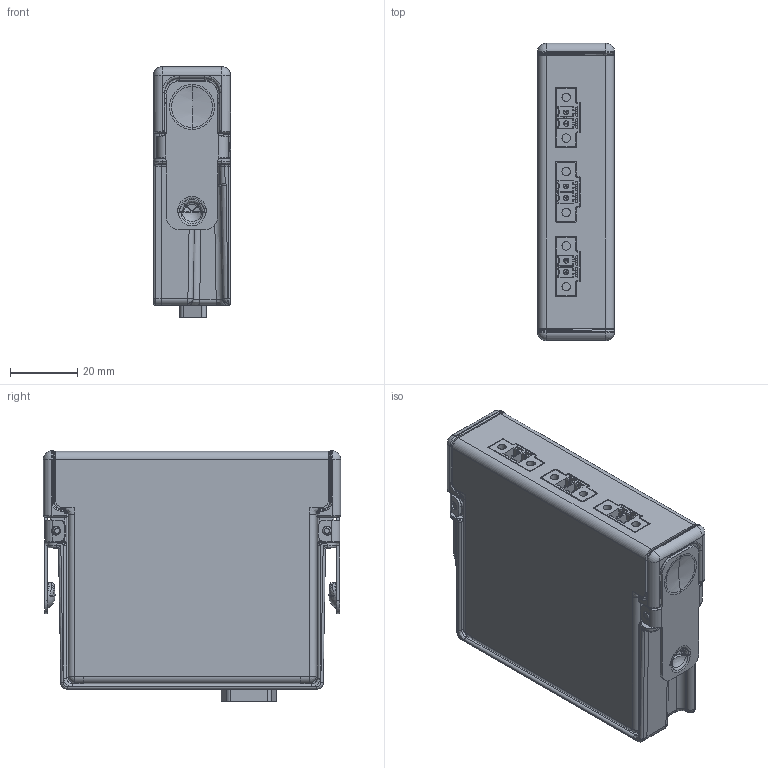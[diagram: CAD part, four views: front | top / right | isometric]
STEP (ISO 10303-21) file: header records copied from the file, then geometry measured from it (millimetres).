
FILE_DESCRIPTION((''),'2;1');
FILE_NAME('CU_NI_9225','2011-01-07T',('dkendric'),(''),'PRO/ENGINEER BY PARAMETRIC TECHNOLOGY CORPORATION, 2006510','PRO/ENGINEER BY PARAMETRIC TECHNOLOGY CORPORATION, 2006510','');
FILE_SCHEMA(('CONFIG_CONTROL_DESIGN'));
Products named in the file (1): CU_NI_9225
Bounding box: 22.86 x 88.11 x 74.24 mm (x, y, z)
Volume: 38909.4 mm3; surface area: 46563.1 mm2
Topology: 12 solids, 12 shells, 1938 faces, 4777 edges, 2860 vertices
Faces by surface type: plane 783, cylinder 644, bspline 365, torus 64, sphere 41, cone 35, extrusion 6
Entity records: 78688 total; most frequent: CARTESIAN_POINT 35895, ORIENTED_EDGE 9408, DIRECTION 8056, EDGE_CURVE 4704, VERTEX_POINT 2898, AXIS2_PLACEMENT_3D 2794, VECTOR 2468, LINE 2462
